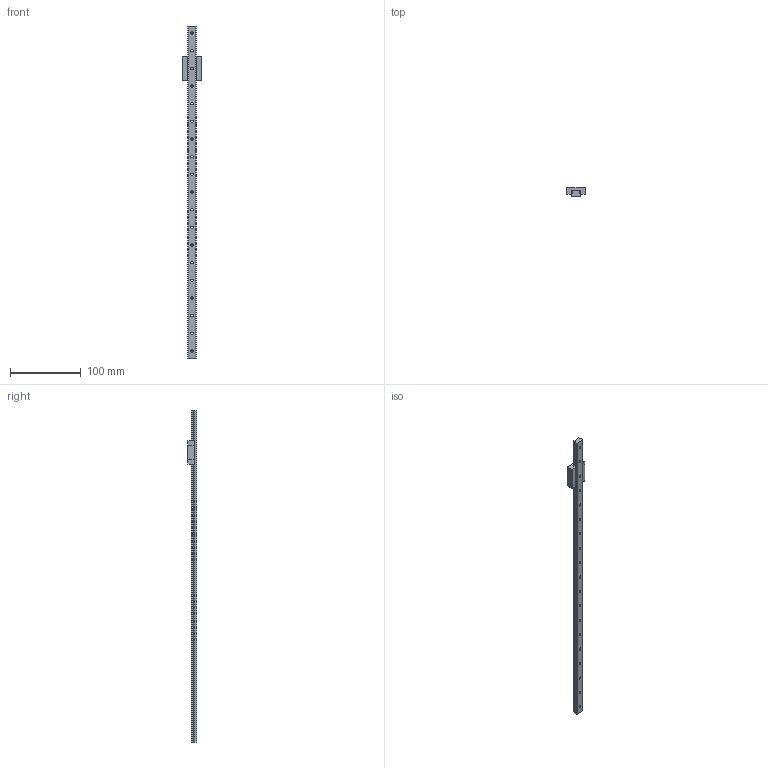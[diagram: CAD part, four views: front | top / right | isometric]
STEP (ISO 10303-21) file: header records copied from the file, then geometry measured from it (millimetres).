
FILE_DESCRIPTION(('STEP AP203'),'1');
FILE_NAME('//192.168.1.1/share/s-4 技術開発/s-4-4_CAD/s-4-4-3_見直し済み/015 修正済み/AMG/AMG_TOP/AMG12-B1-470.step','2022-03-11T05:21:32',(' '),(' '),'Spatial InterOp 3D',' ',' ');
FILE_SCHEMA(('CONFIG_CONTROL_DESIGN'));
Length unit declared in the file: millimetre
Products named in the file (2): 1; 2
Bounding box: 27 x 13 x 470 mm (x, y, z)
Volume: 42370.6 mm3; surface area: 23666.4 mm2
Topology: 2 solids, 2 shells, 137 faces, 334 edges, 220 vertices
Faces by surface type: plane 75, cylinder 58, cone 4
Full cylindrical faces by diameter (mm): 2.5 x8, 3.5 x19, 6 x19
Entity records: 3894 total; most frequent: DIRECTION 666, CARTESIAN_POINT 631, ORIENTED_EDGE 552, EDGE_CURVE 276, AXIS2_PLACEMENT_3D 251, EDGE_LOOP 244, VERTEX_POINT 216, FACE_OUTER_BOUND 183
